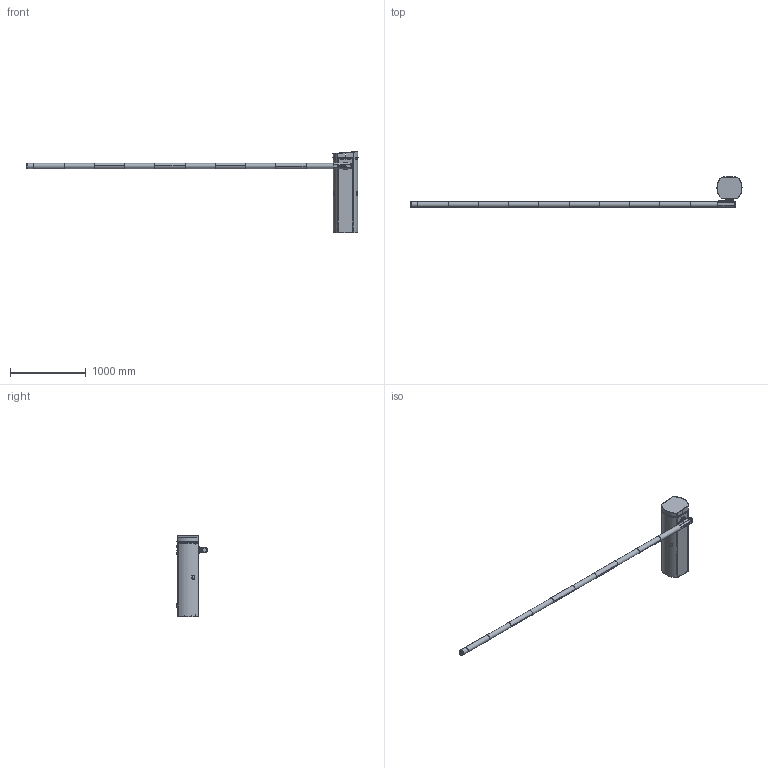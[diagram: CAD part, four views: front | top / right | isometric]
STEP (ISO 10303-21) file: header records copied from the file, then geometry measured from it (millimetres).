
FILE_DESCRIPTION(/* description */ ('Unknown'),/* implementation_level */ '2;1');
FILE_NAME(/* name */ 'GS4_с круглой стрелой',/* time_stamp */ '2021-11-17T17:18:47+03:00',/* author */ ('Unknown'),/* organization */ ('Unknown'),/* preprocessor_version */ 'ST-DEVELOPER v18.1',/* originating_system */ 'Solid Edge',/* authorisation */ 'Unknown');
FILE_SCHEMA (('CONFIG_CONTROL_DESIGN'));
Length unit declared in the file: millimetre
Products named in the file (1): GS4_ñ êðóãëîé ñòðåëîé
Bounding box: 4392.63 x 405.88 x 1072.04 mm (x, y, z)
Volume: 6420138.9 mm3; surface area: 7074473.9 mm2
Topology: 106 solids, 106 shells, 3563 faces, 9072 edges, 5766 vertices
Faces by surface type: plane 2448, cylinder 702, cone 231, bspline 100, torus 58, sphere 24
Full cylindrical faces by diameter (mm): 2.459 x25, 3 x32, 3.5 x16, 3.95 x16, 4 x9, 4.134 x6, 4.773 x6, 4.917 x10, 5 x34, 5.5 x16, 6 x34, 6.4 x6, 6.5 x4, 6.647 x12, 7 x5, 7.2 x4, 7.5 x2, 8 x4, 8.5 x6, 8.88 x6, 9.9 x4, 10 x20, 11.3 x4, 12 x6, 13 x4, 14 x4, 18 x4, 20 x1, 21 x1, 25 x1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
Entity records: 117517 total; most frequent: CARTESIAN_POINT 22116, DIRECTION 16544, ORIENTED_EDGE 16524, EDGE_CURVE 8262, LINE 6166, VECTOR 6166, VERTEX_POINT 5565, AXIS2_PLACEMENT_3D 5189
